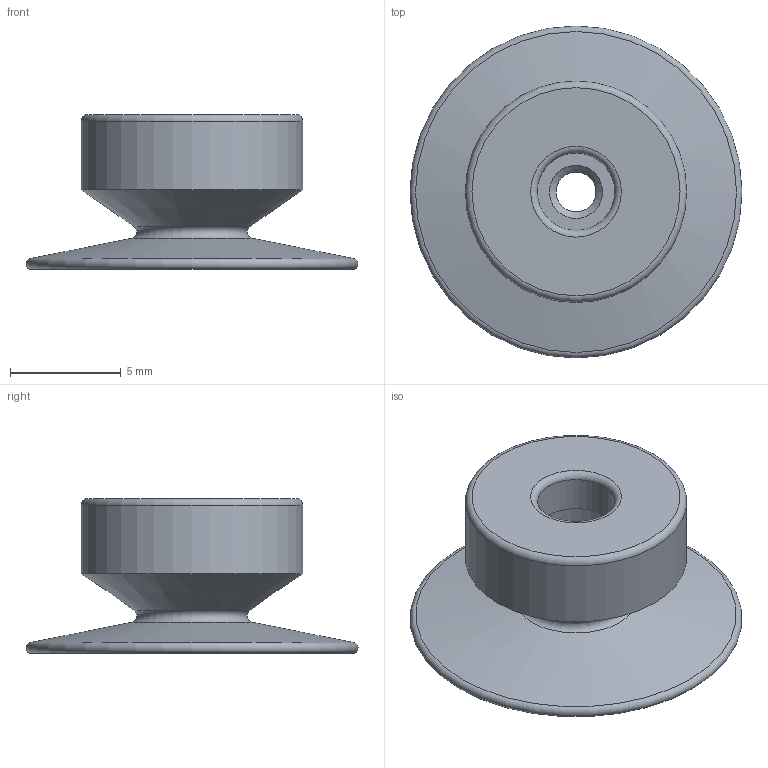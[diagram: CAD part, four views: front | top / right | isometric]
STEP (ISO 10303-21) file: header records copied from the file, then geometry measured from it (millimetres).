
FILE_DESCRIPTION( ( 'Unknown' ), '1' );
FILE_NAME( 'C:/Documents and Settings/Owner/官帕 拳搁/123/VTM30x6-C-A3-CL/FF15X.stp', 'Unknown', ( 'Unknown' ), ( 'Unknown' ), 'PSStep 10.0', 'Unknown', ' ' );
FILE_SCHEMA( ( 'AUTOMOTIVE_DESIGN { 1 0 10303 214 1 1 1 1 }' ) );
Length unit declared in the file: millimetre
Products named in the file (1): 1
Bounding box: 15 x 15 x 7 mm (x, y, z)
Volume: 401.3 mm3; surface area: 696.3 mm2
Topology: 1 solids, 1 shells, 41 faces, 101 edges, 65 vertices
Faces by surface type: plane 23, cylinder 10, cone 4, torus 4
Full cylindrical faces by diameter (mm): 1.8 x1, 3.5 x1, 5.2 x1, 10 x1
Entity records: 1494 total; most frequent: CARTESIAN_POINT 210, DIRECTION 204, ORIENTED_EDGE 174, EDGE_CURVE 87, AXIS2_PLACEMENT_3D 81, VERTEX_POINT 63, EDGE_LOOP 58, FACE_OUTER_BOUND 49
